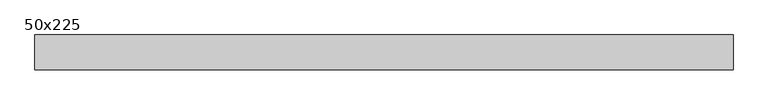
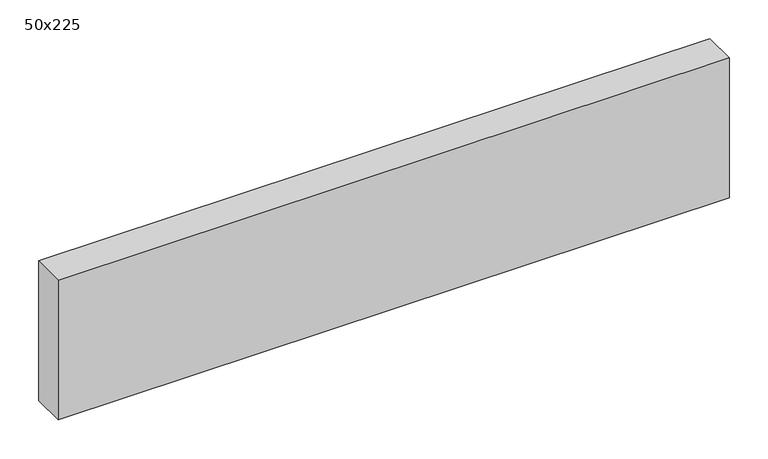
"""IFC4 building model written with IfcOpenShell, lengths in millimetres: beam geometry, Graded Timber : 50x225."""

import ifcopenshell
import ifcopenshell.guid

model = None  # the IFC model being written
_history = None  # IfcOwnerHistory: only IFC2X3 demands one
_inside = {}  # id of a spatial element -> (the spatial element, [elements in it])
_under = {}  # id of a project, library or spatial element -> (it, [spatial elements below it])
_declared = {}  # id of a project -> (the project, [libraries it declares])
_typed = {}  # id of a type object -> (the type object, [elements of that type])
_made_of = {}  # id of a material, layer set ... -> (it, [elements and type objects made of it])


def new_model(schema):
    """Start an empty IFC model of exactly this schema.

    Asked for "IFC4X3", IfcOpenShell would pick the latest addendum, in which some entities
    have other attributes; the version numbers below select the first issue.
    IFC2X3 requires an IfcOwnerHistory on every rooted entity: one is made here for all.
    """
    global model, _history
    if schema == "IFC4X3":
        model = ifcopenshell.file(schema_version=(4, 3, 0, 0))
    else:
        model = ifcopenshell.file(schema=schema)
    _inside.clear()
    _under.clear()
    _declared.clear()
    _typed.clear()
    _made_of.clear()
    _history = None
    if model.schema == "IFC2X3":
        org = make("IfcOrganization", Name="unknown")
        user = make(
            "IfcPersonAndOrganization",
            ThePerson=make("IfcPerson", FamilyName="unknown"),
            TheOrganization=org,
        )
        app = make(
            "IfcApplication",
            ApplicationDeveloper=org,
            Version="unknown",
            ApplicationFullName="unknown",
            ApplicationIdentifier="unknown",
        )
        _history = make(
            "IfcOwnerHistory",
            OwningUser=user,
            OwningApplication=app,
            ChangeAction="ADDED",
            CreationDate=0,
        )
    return model


def make(cls, **values):
    """One entity of the class cls with the attributes given. An attribute that is None is left unset."""
    return model.create_entity(
        cls, **{name: value for name, value in values.items() if value is not None}
    )


def rooted(cls, **values):
    """An entity with a GlobalId (a new one), such as an element, a storey or a relation."""
    return make(cls, GlobalId=ifcopenshell.guid.new(), OwnerHistory=_history, **values)


def si_unit(unit_type, name, prefix=None):
    """IfcSIUnit, for example si_unit("LENGTHUNIT", "METRE", prefix="MILLI")."""
    return make("IfcSIUnit", UnitType=unit_type, Prefix=prefix, Name=name)


def assignment(units):
    """IfcUnitAssignment: the units of a project."""
    return None if units is None else make("IfcUnitAssignment", Units=units)


def point(xyz):
    """IfcCartesianPoint."""
    return None if xyz is None else make("IfcCartesianPoint", Coordinates=xyz)


def direction(xyz):
    """IfcDirection."""
    return None if xyz is None else make("IfcDirection", DirectionRatios=xyz)


def frame(location, z_axis=None, x_axis=None):
    """IfcAxis2Placement3D, a coordinate frame: its origin and axes. An axis left out is left unset."""
    return make(
        "IfcAxis2Placement3D",
        Location=point(location),
        Axis=direction(z_axis),
        RefDirection=direction(x_axis),
    )


def origin():
    """The frame at (0, 0, 0) with its axes left unset."""
    return frame((0.0, 0.0, 0.0))


def place(relative_to, where):
    """IfcLocalPlacement: puts the frame where relative to a parent placement (None: the world)."""
    return make(
        "IfcLocalPlacement", PlacementRelTo=relative_to, RelativePlacement=where
    )


def context(
    kind, dimensions, precision=None, world=None, true_north=None, identifier=None
):
    """IfcGeometricRepresentationContext, for example the 3D "Model" context."""
    return make(
        "IfcGeometricRepresentationContext",
        ContextIdentifier=identifier,
        ContextType=kind,
        CoordinateSpaceDimension=dimensions,
        Precision=precision,
        WorldCoordinateSystem=world,
        TrueNorth=true_north,
    )


def project(units=None, contexts=None):
    """IfcProject with its units and contexts."""
    return rooted(
        "IfcProject",
        Name="project",
        RepresentationContexts=contexts,
        UnitsInContext=assignment(units),
    )


def spatial(cls, under=None, at=None, **own):
    """A site, building, storey or space (cls), placed at a placement, below another one or the project."""
    s = rooted(cls, ObjectPlacement=at, **own)
    if under is not None:
        _under.setdefault(under.id(), (under, []))[1].append(s)
    return s


def polyline(points):
    """IfcPolyline through the points."""
    return make("IfcPolyline", Points=[point(p) for p in points])


def outline(outer, holes=None, kind="AREA"):
    """IfcArbitraryClosedProfileDef: a profile drawn as a closed curve; with holes, ...WithVoids."""
    if holes is None:
        return make("IfcArbitraryClosedProfileDef", ProfileType=kind, OuterCurve=outer)
    return make(
        "IfcArbitraryProfileDefWithVoids",
        ProfileType=kind,
        OuterCurve=outer,
        InnerCurves=holes,
    )


def extrude(swept, where, along, depth):
    """IfcExtrudedAreaSolid: the profile swept, set in the frame where, extruded along a direction by depth."""
    return make(
        "IfcExtrudedAreaSolid",
        SweptArea=swept,
        Position=where,
        ExtrudedDirection=direction(along),
        Depth=depth,
    )


def shape(context_of_items, identifier, shape_type, items):
    """IfcShapeRepresentation: the items that make up one representation, for example the "Body"."""
    return make(
        "IfcShapeRepresentation",
        ContextOfItems=context_of_items,
        RepresentationIdentifier=identifier,
        RepresentationType=shape_type,
        Items=items,
    )


def source(mapping_origin, context_of_items, identifier, shape_type, items):
    """IfcRepresentationMap: a shape defined once, which mapped items show again and again."""
    return make(
        "IfcRepresentationMap",
        MappingOrigin=mapping_origin,
        MappedRepresentation=shape(context_of_items, identifier, shape_type, items),
    )


def transform(
    local_origin,
    x_axis=None,
    y_axis=None,
    z_axis=None,
    scale=None,
    scale2=None,
    scale3=None,
    uniform=True,
):
    """IfcCartesianTransformationOperator3D, or its non-uniform kind. x_axis, y_axis, z_axis: its Axis1, 2, 3."""
    if uniform:
        return make(
            "IfcCartesianTransformationOperator3D",
            Axis1=direction(x_axis),
            Axis2=direction(y_axis),
            LocalOrigin=point(local_origin),
            Scale=scale,
            Axis3=direction(z_axis),
        )
    return make(
        "IfcCartesianTransformationOperator3DnonUniform",
        Axis1=direction(x_axis),
        Axis2=direction(y_axis),
        LocalOrigin=point(local_origin),
        Scale=scale,
        Axis3=direction(z_axis),
        Scale2=scale2,
        Scale3=scale3,
    )


def mapped(mapping_source, mapping_target):
    """IfcMappedItem: shows the shape of a source again, moved by a transform."""
    return make(
        "IfcMappedItem", MappingSource=mapping_source, MappingTarget=mapping_target
    )


def made_of(thing, what):
    """Note that an element or type object is made of a material, layer set ...; save() writes the relation."""
    if what is not None:
        _made_of.setdefault(what.id(), (what, []))[1].append(thing)
    return thing


def element(
    cls,
    number,
    at=None,
    inside=None,
    cuts=None,
    type_object=None,
    material=None,
    context=None,
    identifier="Body",
    shape_type=None,
    held_by="IfcProductDefinitionShape",
    body=None,
    shapes=None,
    **own,
):
    """One element of the class cls, such as IfcWall. Its Tag is "e" and its number.

    at: its placement. inside: the storey or other place that contains it. cuts: it is an
    opening in that element (IfcRelVoidsElement). A single representation is given by context,
    identifier, shape_type and body (its items); several are given by shapes. held_by: the class
    of the entity that holds the representations. save() writes the other relations.
    """
    e = rooted(cls, Tag="e%d" % number, ObjectPlacement=at, **own)
    if body is not None:
        shapes = [shape(context, identifier, shape_type, body)]
    if shapes is not None:
        e.Representation = make(held_by, Representations=shapes)
    if inside is not None:
        _inside.setdefault(inside.id(), (inside, []))[1].append(e)
    if cuts is not None:
        rooted(
            "IfcRelVoidsElement", RelatingBuildingElement=cuts, RelatedOpeningElement=e
        )
    if type_object is not None:
        _typed.setdefault(type_object.id(), (type_object, []))[1].append(e)
    return made_of(e, material)


def aggregate(whole, parts):
    """IfcRelAggregates: a whole, such as a stair, and the parts it consists of."""
    return rooted("IfcRelAggregates", RelatingObject=whole, RelatedObjects=parts)


def save(model, path):
    """Write the relations noted so far, then the file.

    IfcRelAggregates (storeys below a building ...), IfcRelContainedInSpatialStructure (elements
    in a storey), IfcRelDefinesByType, IfcRelAssociatesMaterial and IfcRelDeclares: one each for
    every whole, place, type object, material and project.
    """
    for whole, parts in _under.values():
        aggregate(whole, parts)
    for where, things in _inside.values():
        rooted(
            "IfcRelContainedInSpatialStructure",
            RelatedElements=things,
            RelatingStructure=where,
        )
    for kind, things in _typed.values():
        rooted("IfcRelDefinesByType", RelatedObjects=things, RelatingType=kind)
    for what, things in _made_of.values():
        rooted("IfcRelAssociatesMaterial", RelatedObjects=things, RelatingMaterial=what)
    for by, libraries in _declared.values():
        rooted("IfcRelDeclares", RelatingContext=by, RelatedDefinitions=libraries)
    model.write(path)


def beam_50x225_9eec0f42(model_context):
    return source(origin(), model_context, "Body", "SweptSolid", [
        extrude(outline(polyline([(536.0, 25.0), (536.0, -25.0), (-464.3020669, -25.0), (-464.3020669, 25.0), (536.0, 25.0)])), frame((0.0, 0.0, -110.0), z_axis=(0.0, 0.0, 1.0), x_axis=(1.0, 0.0, 0.0)), (0.0, 0.0, 1.0), 220.0),
    ])


if __name__ == "__main__":
    model = new_model("IFC4")
    model_context = context("Model", 3, world=origin())
    ifc_project = project(units=[si_unit("LENGTHUNIT", "METRE", prefix="MILLI")], contexts=[model_context])
    site = spatial("IfcSite", under=ifc_project)
    building = spatial("IfcBuilding", under=site)
    placement = place(None, origin())
    beam_50x225_shape = beam_50x225_9eec0f42(model_context)
    element("IfcBeam", 1, ObjectType="Graded Timber : 50x225", at=placement, inside=building, context=model_context, shape_type="MappedRepresentation", body=[
        mapped(beam_50x225_shape, transform((0.0, 0.0, 0.0), x_axis=(1.0, 0.0, 0.0), y_axis=(0.0, 1.0, 0.0), z_axis=(0.0, 0.0, 1.0))),
    ])
    save(model, "model.ifc")
